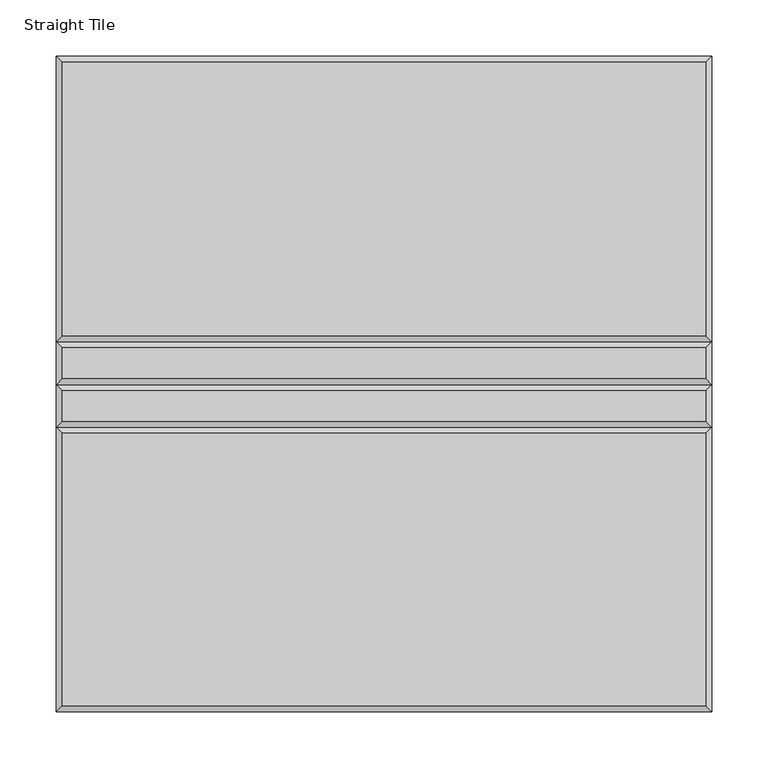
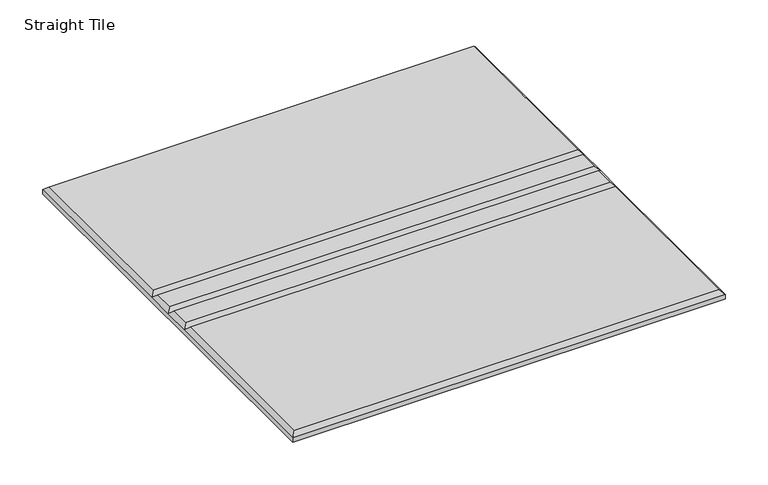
"""IFC4 building model written with IfcOpenShell, lengths in millimetres: proxy geometry, Wall-Panel-Kirei-EchoPanel-Echotile-Racetrack : Straight Tile."""

from ifc_helpers import new_model, si_unit, origin, place, context, project, spatial, faceted_brep, source, transform, mapped, element, save


def straight_tile_5723f8c6(model_context):
    return source(origin(), model_context, "Body", "Brep", [
        faceted_brep([(-30.9054687, -286.5945312, 12.0054687), (-30.9054687, -44.0630399, 12.0054687), (-604.0945312, -44.0630399, 12.0054687), (-604.0945312, -286.5945312, 12.0054687), (-604.0945312, 286.5945313, 12.0054687), (-604.0945312, 43.1478976, 12.0054687), (-30.9054687, 43.1478976, 12.0054687), (-30.9054687, 286.5945313, 12.0054687), (-30.9054687, -5.9630399, 12.0054687), (-604.0945312, -5.9630399, 12.0054687), (-604.0945312, -33.0521024, 12.0054687), (-30.9054687, -33.0521024, 12.0054687), (-30.9054687, 32.1369601, 12.0054687), (-604.0945312, 32.1369601, 12.0054687), (-604.0945312, 5.0478976, 12.0054687), (-30.9054687, 5.0478976, 12.0054687), (-25.4, -292.1, 0.0), (-609.6, -292.1, 0.0), (-609.6, 292.1, 0.0), (-25.4, 292.1, 0.0), (-25.4, -292.1, 6.5), (-609.6, -292.1, 6.5), (-609.6, -38.5575711, 6.5), (-609.6, -0.4575711, 6.5), (-609.6, 37.6424289, 6.5), (-609.6, 292.1, 6.5), (-25.4, 292.1, 6.5), (-25.4, 37.6424289, 6.5), (-25.4, -0.4575711, 6.5), (-25.4, -38.5575711, 6.5)], [[[0, 1, 2, 3]], [[4, 5, 6, 7]], [[8, 9, 10, 11]], [[12, 13, 14, 15]], [[16, 17, 18, 19]], [[16, 20, 21, 17]], [[17, 21, 22, 23, 24, 25, 18]], [[18, 25, 26, 19]], [[19, 26, 27, 28, 29, 20, 16]], [[7, 6, 27, 26]], [[20, 29, 1, 0]], [[11, 29, 28, 8]], [[15, 28, 27, 12]], [[0, 3, 21, 20]], [[3, 2, 22, 21]], [[25, 24, 5, 4]], [[9, 23, 22, 10]], [[13, 24, 23, 14]], [[26, 25, 4, 7]], [[29, 11, 10, 22]], [[22, 2, 1, 29]], [[28, 15, 14, 23]], [[23, 9, 8, 28]], [[27, 6, 5, 24]], [[24, 13, 12, 27]]]),
    ])


if __name__ == "__main__":
    model = new_model("IFC4")
    model_context = context("Model", 3, world=origin())
    ifc_project = project(units=[si_unit("LENGTHUNIT", "METRE", prefix="MILLI")], contexts=[model_context])
    site = spatial("IfcSite", under=ifc_project)
    building = spatial("IfcBuilding", under=site)
    placement = place(None, origin())
    straight_tile_shape = straight_tile_5723f8c6(model_context)
    element("IfcBuildingElementProxy", 1, Name="Wall-Panel-Kirei-EchoPanel-Echotile-Racetrack : Straight Tile", ObjectType="Wall-Panel-Kirei-EchoPanel-Echotile-Racetrack : Straight Tile", at=placement, inside=building, context=model_context, shape_type="MappedRepresentation", body=[
        mapped(straight_tile_shape, transform((0.0, 0.0, 0.0), x_axis=(1.0, 0.0, 0.0), y_axis=(0.0, 1.0, 0.0), z_axis=(0.0, 0.0, 1.0))),
    ])
    save(model, "model.ifc")
